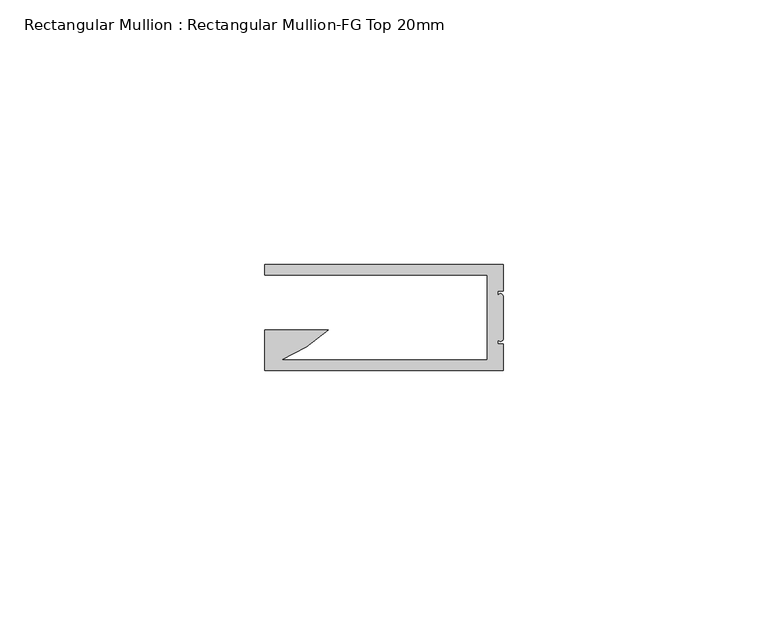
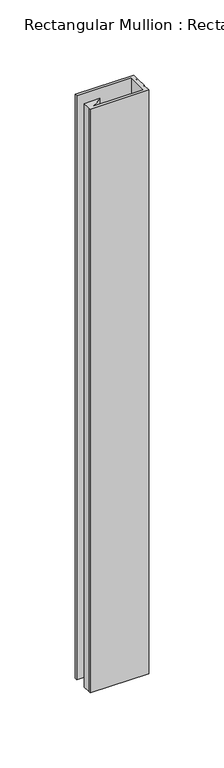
"""IFC4 building model written with IfcOpenShell, lengths in millimetres: member geometry, Rectangular Mullion : Rectangular Mullion-FG Top 20mm."""

from ifc_helpers import new_model, si_unit, frame, origin, place, context, project, spatial, circle_curve, source, transform, mapped, element, save
from ifc_brep_helpers import plane_surface, cylinder_surface, advanced_brep


def rectangular_mullion_rectangular_mullion_fg_top_20mm_4843f478(model_context):
    return source(origin(), model_context, "Body", "AdvancedBrep", [
        advanced_brep(
        [(0.0, -5.002, 0.0), (0.0, -0.002, 0.0), (-45.0, -0.002, 0.0), (-45.0, -2.002, 0.0), (-3.0, -2.002, 0.0), (-3.0, -18.002, 0.0), (-41.8651614, -18.002, 0.0), (-33.0474856, -12.382, 0.0), (-45.0, -12.382, 0.0), (-45.0, -18.002, 0.0), (-45.0, -20.002, 0.0), (0.0, -20.002, 0.0), (0.0, -15.002, 0.0), (-1.0, -15.002, 0.0), (-1.0, -14.002, 0.0), (0.0, -14.002, 0.0), (0.0, -6.002, 0.0), (-1.0, -6.002, 0.0), (-1.0, -5.002, 0.0), (0.0, -5.002, -474.7965432), (-1.0, -5.002, -474.7965432), (-1.0, -6.002, -474.7965432), (0.0, -6.002, -474.7965432), (0.0, -14.002, -474.7965432), (-1.0, -14.002, -474.7965432), (-1.0, -15.002, -474.7965432), (0.0, -15.002, -474.7965432), (0.0, -20.002, -474.7965432), (-45.0, -20.002, -474.7965432), (-45.0, -18.002, -474.7965432), (-45.0, -12.382, -474.7965432), (-33.0474856, -12.382, -474.7965432), (-41.8651614, -18.002, -474.7965432), (-3.0, -18.002, -474.7965432), (-3.0, -2.002, -474.7965432), (-45.0, -2.002, -474.7965432), (-45.0, -0.002, -474.7965432), (0.0, -0.002, -474.7965432)],
        [
            (0, 1),
            (1, 2),
            (2, 3),
            (3, 4),
            (4, 5),
            (5, 6),
            (6, 7, circle_curve(frame((-52.4160523, 8.2795369, 0.0), z_axis=(0.0, 0.0, 1.0), x_axis=(1.0, 0.0, 0.0)), 28.3203192)),
            (7, 8),
            (8, 9),
            (9, 10),
            (10, 11),
            (11, 12),
            (12, 13),
            (13, 14),
            (14, 15, circle_curve(frame((-0.5, -14.002, 0.0), z_axis=(0.0, 0.0, 1.0), x_axis=(1.0, 0.0, 0.0)), 0.5)),
            (15, 16),
            (16, 17, circle_curve(frame((-0.5, -6.002, 0.0), z_axis=(0.0, 0.0, 1.0), x_axis=(1.0, 0.0, 0.0)), 0.5)),
            (17, 18),
            (18, 0),
            (19, 20),
            (20, 21),
            (21, 22, circle_curve(frame((-0.5, -6.002, -474.7965432), z_axis=(0.0, 0.0, -1.0), x_axis=(1.0, 0.0, 0.0)), 0.5)),
            (22, 23),
            (23, 24, circle_curve(frame((-0.5, -14.002, -474.7965432), z_axis=(0.0, 0.0, -1.0), x_axis=(1.0, 0.0, 0.0)), 0.5)),
            (24, 25),
            (25, 26),
            (26, 27),
            (27, 28),
            (28, 29),
            (29, 30),
            (30, 31),
            (31, 32, circle_curve(frame((-52.4160523, 8.2795369, -474.7965432), z_axis=(0.0, 0.0, -1.0), x_axis=(1.0, 0.0, 0.0)), 28.3203192)),
            (32, 33),
            (33, 34),
            (34, 35),
            (35, 36),
            (36, 37),
            (37, 19),
            (0, 19),
            (37, 1),
            (36, 2),
            (35, 3),
            (34, 4),
            (33, 5),
            (32, 6),
            (31, 7),
            (30, 8),
            (29, 9),
            (28, 10),
            (27, 11),
            (26, 12),
            (25, 13),
            (24, 14),
            (23, 15),
            (22, 16),
            (21, 17),
            (20, 18),
        ],
        [
            plane_surface(frame((0.0, -49.2451013, 0.0), z_axis=(0.0, 0.0, 1.0), x_axis=(-1.0, 0.0, 0.0))),
            plane_surface(frame((0.0, -49.2451013, -474.7965432), z_axis=(0.0, 0.0, -1.0), x_axis=(-1.0, 0.0, 0.0))),
            plane_surface(frame((0.0, -5.002, 0.0), z_axis=(1.0, 0.0, 0.0), x_axis=(0.0, 0.0, -1.0))),
            plane_surface(frame((0.0, -0.002, 0.0), z_axis=(0.0, 1.0, 0.0), x_axis=(0.0, 0.0, -1.0))),
            plane_surface(frame((-45.0, -0.002, 0.0), z_axis=(-1.0, 0.0, 0.0), x_axis=(0.0, 0.0, -1.0))),
            plane_surface(frame((-45.0, -2.002, 0.0), z_axis=(0.0, -1.0, 0.0), x_axis=(0.0, 0.0, -1.0))),
            plane_surface(frame((-3.0, -2.002, 0.0), z_axis=(-1.0, 0.0, 0.0), x_axis=(0.0, 0.0, -1.0))),
            plane_surface(frame((-3.0, -18.002, 0.0), z_axis=(0.0, 1.0, 0.0), x_axis=(0.0, 0.0, -1.0))),
            cylinder_surface(frame((-52.4160523, 8.2795369, 0.0), z_axis=(0.0, 0.0, 1.0), x_axis=(1.0, 0.0, 0.0)), 28.3203192),
            plane_surface(frame((-33.0474856, -12.382, 0.0), z_axis=(0.0, 1.0, 0.0), x_axis=(0.0, 0.0, -1.0))),
            plane_surface(frame((-45.0, -12.382, 0.0), z_axis=(-1.0, 0.0, 0.0), x_axis=(0.0, 0.0, -1.0))),
            plane_surface(frame((-45.0, -18.002, 0.0), z_axis=(-1.0, 0.0, 0.0), x_axis=(0.0, 0.0, -1.0))),
            plane_surface(frame((-45.0, -20.002, 0.0), z_axis=(0.0, -1.0, 0.0), x_axis=(0.0, 0.0, -1.0))),
            plane_surface(frame((0.0, -20.002, 0.0), z_axis=(1.0, 0.0, 0.0), x_axis=(0.0, 0.0, -1.0))),
            plane_surface(frame((0.0, -15.002, 0.0), z_axis=(0.0, 1.0, 0.0), x_axis=(0.0, 0.0, -1.0))),
            plane_surface(frame((-1.0, -15.002, 0.0), z_axis=(1.0, 0.0, 0.0), x_axis=(0.0, 0.0, -1.0))),
            cylinder_surface(frame((-0.5, -14.002, 0.0), z_axis=(0.0, 0.0, 1.0), x_axis=(1.0, 0.0, 0.0)), 0.5),
            plane_surface(frame((0.0, -14.002, 0.0), z_axis=(1.0, 0.0, 0.0), x_axis=(0.0, 0.0, -1.0))),
            cylinder_surface(frame((-0.5, -6.002, 0.0), z_axis=(0.0, 0.0, 1.0), x_axis=(1.0, 0.0, 0.0)), 0.5),
            plane_surface(frame((-1.0, -6.002, 0.0), z_axis=(1.0, 0.0, 0.0), x_axis=(0.0, 0.0, -1.0))),
            plane_surface(frame((-1.0, -5.002, 0.0), z_axis=(0.0, -1.0, 0.0), x_axis=(0.0, 0.0, -1.0))),
        ],
        [
            (0, [[1, 2, 3, 4, 5, 6, 7, 8, 9, 10, 11, 12, 13, 14, 15, 16, 17, 18, 19]]),
            (1, [[20, 21, 22, 23, 24, 25, 26, 27, 28, 29, 30, 31, 32, 33, 34, 35, 36, 37, 38]]),
            (2, [[-1, 39, -38, 40]]),
            (3, [[-2, -40, -37, 41]]),
            (4, [[-3, -41, -36, 42]]),
            (5, [[-4, -42, -35, 43]]),
            (6, [[-5, -43, -34, 44]]),
            (7, [[-6, -44, -33, 45]]),
            (8, [[-7, -45, -32, 46]]),
            (9, [[-8, -46, -31, 47]]),
            (10, [[-9, -47, -30, 48]]),
            (11, [[-10, -48, -29, 49]]),
            (12, [[-11, -49, -28, 50]]),
            (13, [[-12, -50, -27, 51]]),
            (14, [[-13, -51, -26, 52]]),
            (15, [[-14, -52, -25, 53]]),
            (16, [[-15, -53, -24, 54]]),
            (17, [[-16, -54, -23, 55]]),
            (18, [[-17, -55, -22, 56]]),
            (19, [[-18, -56, -21, 57]]),
            (20, [[-19, -57, -20, -39]]),
        ],
    ),
    ])


if __name__ == "__main__":
    model = new_model("IFC4")
    model_context = context("Model", 3, world=origin())
    ifc_project = project(units=[si_unit("LENGTHUNIT", "METRE", prefix="MILLI")], contexts=[model_context])
    site = spatial("IfcSite", under=ifc_project)
    building = spatial("IfcBuilding", under=site)
    placement = place(None, origin())
    rectangular_mullion_rectangular_mullion_fg_top_20mm_shape = rectangular_mullion_rectangular_mullion_fg_top_20mm_4843f478(model_context)
    element("IfcMember", 1, ObjectType="Rectangular Mullion : Rectangular Mullion-FG Top 20mm", at=placement, inside=building, context=model_context, shape_type="MappedRepresentation", body=[
        mapped(rectangular_mullion_rectangular_mullion_fg_top_20mm_shape, transform((0.0, 0.0, 0.0), x_axis=(1.0, 0.0, 0.0), y_axis=(0.0, 1.0, 0.0), z_axis=(0.0, 0.0, 1.0))),
    ])
    save(model, "model.ifc")
